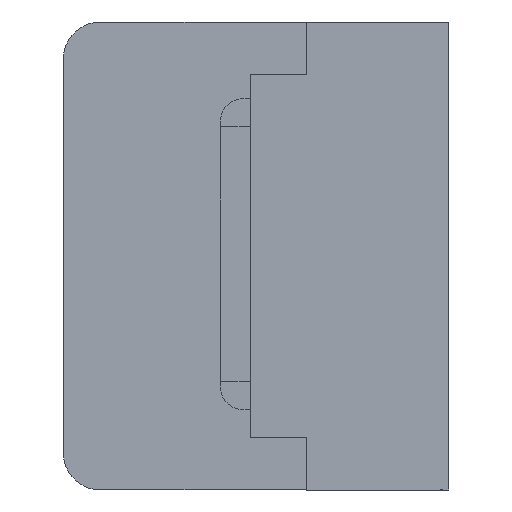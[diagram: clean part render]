
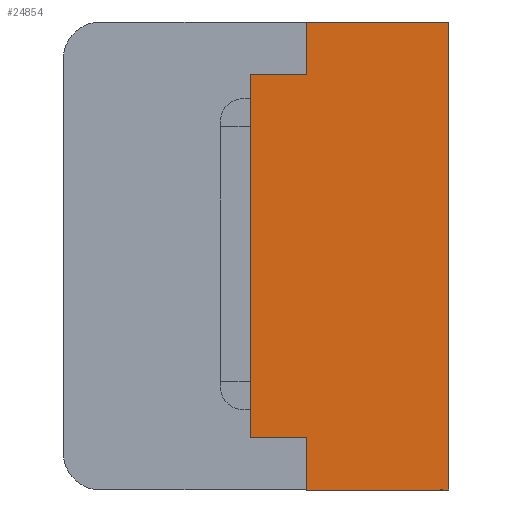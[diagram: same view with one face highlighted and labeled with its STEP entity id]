
A CAD part, left-side view. The second image highlights one B-rep face of the part: STEP entity #24854.
In plain terms, the highlighted planar face has unit normal (-1, 0, 0).
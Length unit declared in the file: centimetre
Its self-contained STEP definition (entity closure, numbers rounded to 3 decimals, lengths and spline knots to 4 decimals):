
#1520=PLANE('',#40935);
#2240=VECTOR('',#26159,1.);
#2333=VECTOR('',#26287,1.);
#2335=VECTOR('',#26292,1.);
#2372=VECTOR('',#26330,1.);
#3857=VECTOR('',#29732,1.);
#3858=VECTOR('',#29733,1.);
#3859=VECTOR('',#29734,1.);
#3860=VECTOR('',#29735,1.);
#4836=LINE('',#32397,#2240);
#4929=LINE('',#32598,#2333);
#4931=LINE('',#32604,#2335);
#4968=LINE('',#32677,#2372);
#6453=LINE('',#37880,#3857);
#6454=LINE('',#37882,#3858);
#6455=LINE('',#37883,#3859);
#6456=LINE('',#37885,#3860);
#7368=VERTEX_POINT('',#32396);
#7369=VERTEX_POINT('',#32398);
#7410=VERTEX_POINT('',#32514);
#7451=VERTEX_POINT('',#32597);
#7453=VERTEX_POINT('',#32603);
#7489=VERTEX_POINT('',#32678);
#8938=VERTEX_POINT('',#37881);
#8939=VERTEX_POINT('',#37884);
#10553=EDGE_CURVE('',#7368,#7369,#4836,.T.);
#10653=EDGE_CURVE('',#7451,#7410,#4929,.T.);
#10656=EDGE_CURVE('',#7410,#7453,#4931,.T.);
#10693=EDGE_CURVE('',#7453,#7489,#4968,.T.);
#12930=EDGE_CURVE('',#8938,#7451,#6453,.T.);
#12931=EDGE_CURVE('',#7369,#8938,#6454,.T.);
#12932=EDGE_CURVE('',#8939,#7368,#6455,.T.);
#12933=EDGE_CURVE('',#7489,#8939,#6456,.T.);
#19735=ORIENTED_EDGE('',*,*,#12930,.F.);
#19736=ORIENTED_EDGE('',*,*,#12931,.F.);
#19737=ORIENTED_EDGE('',*,*,#10553,.F.);
#19738=ORIENTED_EDGE('',*,*,#12932,.F.);
#19739=ORIENTED_EDGE('',*,*,#12933,.F.);
#19740=ORIENTED_EDGE('',*,*,#10693,.F.);
#19741=ORIENTED_EDGE('',*,*,#10656,.F.);
#19742=ORIENTED_EDGE('',*,*,#10653,.F.);
#22005=EDGE_LOOP('',(#19735,#19736,#19737,#19738,#19739,#19740,#19741,#19742));
#23479=FACE_BOUND('',#22005,.T.);
#24854=ADVANCED_FACE('',(#23479),#1520,.F.);
#26159=DIRECTION('',(0.,0.,1.));
#26287=DIRECTION('',(0.,-1.,0.));
#26292=DIRECTION('',(0.,0.,-1.));
#26330=DIRECTION('',(0.,1.,0.));
#29731=DIRECTION('',(1.,0.,0.));
#29732=DIRECTION('',(0.,0.,1.));
#29733=DIRECTION('',(0.,-1.,0.));
#29734=DIRECTION('',(0.,1.,0.));
#29735=DIRECTION('',(0.,0.,1.));
#32396=CARTESIAN_POINT('',(-1.382,0.53,-0.485));
#32397=CARTESIAN_POINT('',(-1.382,0.53,-0.485));
#32398=CARTESIAN_POINT('',(-1.382,0.53,0.485));
#32514=CARTESIAN_POINT('',(-1.382,0.,0.625));
#32597=CARTESIAN_POINT('',(-1.382,0.38,0.625));
#32598=CARTESIAN_POINT('',(-1.382,0.38,0.625));
#32603=CARTESIAN_POINT('',(-1.382,0.,-0.625));
#32604=CARTESIAN_POINT('',(-1.382,0.,0.625));
#32677=CARTESIAN_POINT('',(-1.382,0.,-0.625));
#32678=CARTESIAN_POINT('',(-1.382,0.38,-0.625));
#37879=CARTESIAN_POINT('',(-1.382,0.2532,0.));
#37880=CARTESIAN_POINT('',(-1.382,0.38,0.485));
#37881=CARTESIAN_POINT('',(-1.382,0.38,0.485));
#37882=CARTESIAN_POINT('',(-1.382,0.53,0.485));
#37883=CARTESIAN_POINT('',(-1.382,0.38,-0.485));
#37884=CARTESIAN_POINT('',(-1.382,0.38,-0.485));
#37885=CARTESIAN_POINT('',(-1.382,0.38,-0.625));
#40935=AXIS2_PLACEMENT_3D('',#37879,#29731,$);
